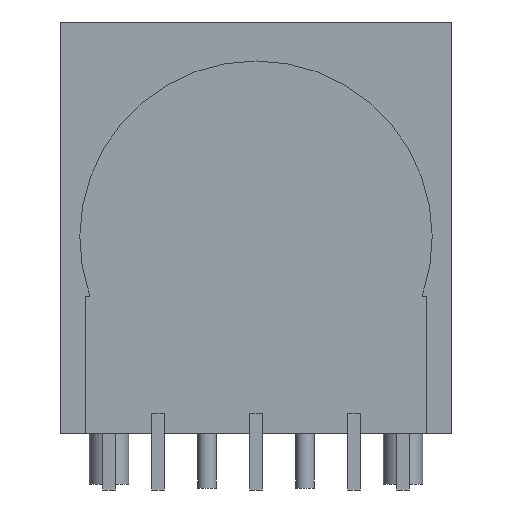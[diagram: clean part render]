
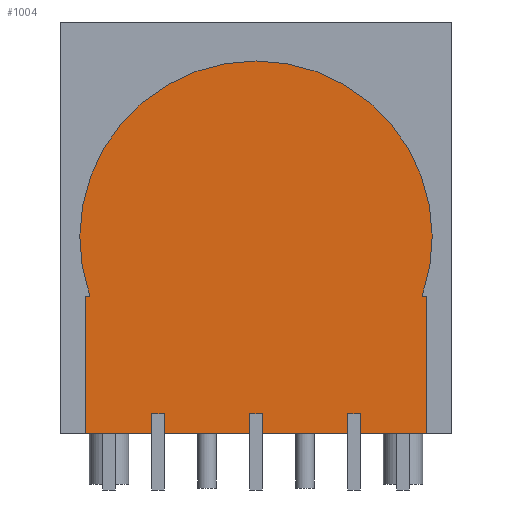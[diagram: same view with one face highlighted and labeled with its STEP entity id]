
A CAD part, front view. The second image highlights one B-rep face of the part: STEP entity #1004.
In plain terms, the highlighted planar face has unit normal (0, -1, 0).
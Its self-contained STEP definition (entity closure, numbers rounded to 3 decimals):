
#126 = PLANE('',#127);
#127 = AXIS2_PLACEMENT_3D('',#128,#129,#130);
#128 = CARTESIAN_POINT('',(-10.,-1.78,0.));
#129 = DIRECTION('',(0.,0.,1.));
#130 = DIRECTION('',(1.,0.,0.));
#309 = PLANE('',#310);
#310 = AXIS2_PLACEMENT_3D('',#311,#312,#313);
#311 = CARTESIAN_POINT('',(8.7,-13.2,0.));
#312 = DIRECTION('',(1.,0.,0.));
#313 = DIRECTION('',(0.,0.,1.));
#337 = PLANE('',#338);
#338 = AXIS2_PLACEMENT_3D('',#339,#340,#341);
#339 = CARTESIAN_POINT('',(-8.7,-13.2,7.));
#340 = DIRECTION('',(0.,0.,1.));
#341 = DIRECTION('',(1.,0.,0.));
#366 = CYLINDRICAL_SURFACE('',#367,9.);
#367 = AXIS2_PLACEMENT_3D('',#368,#369,#370);
#368 = CARTESIAN_POINT('',(0.,-1.78,10.01));
#369 = DIRECTION('',(-0.,1.,-0.));
#370 = DIRECTION('',(1.,0.,0.));
#394 = PLANE('',#395);
#395 = AXIS2_PLACEMENT_3D('',#396,#397,#398);
#396 = CARTESIAN_POINT('',(-8.7,-13.2,7.));
#397 = DIRECTION('',(0.,0.,1.));
#398 = DIRECTION('',(1.,0.,0.));
#420 = PLANE('',#421);
#421 = AXIS2_PLACEMENT_3D('',#422,#423,#424);
#422 = CARTESIAN_POINT('',(-8.7,-13.2,0.));
#423 = DIRECTION('',(1.,0.,0.));
#424 = DIRECTION('',(0.,0.,1.));
#567 = VERTEX_POINT('',#568);
#568 = CARTESIAN_POINT('',(-8.7,-13.2,0.));
#589 = EDGE_CURVE('',#567,#590,#592,.T.);
#590 = VERTEX_POINT('',#591);
#591 = CARTESIAN_POINT('',(8.7,-13.2,0.));
#592 = SURFACE_CURVE('',#593,(#597,#604),.PCURVE_S1.);
#593 = LINE('',#594,#595);
#594 = CARTESIAN_POINT('',(-8.7,-13.2,0.));
#595 = VECTOR('',#596,1.);
#596 = DIRECTION('',(1.,0.,0.));
#597 = PCURVE('',#126,#598);
#598 = DEFINITIONAL_REPRESENTATION('',(#599),#603);
#599 = LINE('',#600,#601);
#600 = CARTESIAN_POINT('',(1.3,-11.42));
#601 = VECTOR('',#602,1.);
#602 = DIRECTION('',(1.,0.));
#603 = ( GEOMETRIC_REPRESENTATION_CONTEXT(2) 
PARAMETRIC_REPRESENTATION_CONTEXT() REPRESENTATION_CONTEXT('2D SPACE',''
  ) );
#604 = PCURVE('',#605,#610);
#605 = PLANE('',#606);
#606 = AXIS2_PLACEMENT_3D('',#607,#608,#609);
#607 = CARTESIAN_POINT('',(-8.7,-13.2,0.));
#608 = DIRECTION('',(0.,1.,0.));
#609 = DIRECTION('',(0.,0.,1.));
#610 = DEFINITIONAL_REPRESENTATION('',(#611),#615);
#611 = LINE('',#612,#613);
#612 = CARTESIAN_POINT('',(0.,0.));
#613 = VECTOR('',#614,1.);
#614 = DIRECTION('',(0.,1.));
#615 = ( GEOMETRIC_REPRESENTATION_CONTEXT(2) 
PARAMETRIC_REPRESENTATION_CONTEXT() REPRESENTATION_CONTEXT('2D SPACE',''
  ) );
#733 = EDGE_CURVE('',#590,#734,#736,.T.);
#734 = VERTEX_POINT('',#735);
#735 = CARTESIAN_POINT('',(8.7,-13.2,7.));
#736 = SURFACE_CURVE('',#737,(#741,#748),.PCURVE_S1.);
#737 = LINE('',#738,#739);
#738 = CARTESIAN_POINT('',(8.7,-13.2,0.));
#739 = VECTOR('',#740,1.);
#740 = DIRECTION('',(0.,0.,1.));
#741 = PCURVE('',#309,#742);
#742 = DEFINITIONAL_REPRESENTATION('',(#743),#747);
#743 = LINE('',#744,#745);
#744 = CARTESIAN_POINT('',(0.,0.));
#745 = VECTOR('',#746,1.);
#746 = DIRECTION('',(1.,0.));
#747 = ( GEOMETRIC_REPRESENTATION_CONTEXT(2) 
PARAMETRIC_REPRESENTATION_CONTEXT() REPRESENTATION_CONTEXT('2D SPACE',''
  ) );
#748 = PCURVE('',#605,#749);
#749 = DEFINITIONAL_REPRESENTATION('',(#750),#754);
#750 = LINE('',#751,#752);
#751 = CARTESIAN_POINT('',(0.,17.4));
#752 = VECTOR('',#753,1.);
#753 = DIRECTION('',(1.,0.));
#754 = ( GEOMETRIC_REPRESENTATION_CONTEXT(2) 
PARAMETRIC_REPRESENTATION_CONTEXT() REPRESENTATION_CONTEXT('2D SPACE',''
  ) );
#784 = VERTEX_POINT('',#785);
#785 = CARTESIAN_POINT('',(8.482,-13.2,7.));
#804 = EDGE_CURVE('',#784,#734,#805,.T.);
#805 = SURFACE_CURVE('',#806,(#810,#817),.PCURVE_S1.);
#806 = LINE('',#807,#808);
#807 = CARTESIAN_POINT('',(-8.7,-13.2,7.));
#808 = VECTOR('',#809,1.);
#809 = DIRECTION('',(1.,0.,0.));
#810 = PCURVE('',#337,#811);
#811 = DEFINITIONAL_REPRESENTATION('',(#812),#816);
#812 = LINE('',#813,#814);
#813 = CARTESIAN_POINT('',(0.,0.));
#814 = VECTOR('',#815,1.);
#815 = DIRECTION('',(1.,0.));
#816 = ( GEOMETRIC_REPRESENTATION_CONTEXT(2) 
PARAMETRIC_REPRESENTATION_CONTEXT() REPRESENTATION_CONTEXT('2D SPACE',''
  ) );
#817 = PCURVE('',#605,#818);
#818 = DEFINITIONAL_REPRESENTATION('',(#819),#823);
#819 = LINE('',#820,#821);
#820 = CARTESIAN_POINT('',(7.,0.));
#821 = VECTOR('',#822,1.);
#822 = DIRECTION('',(0.,1.));
#823 = ( GEOMETRIC_REPRESENTATION_CONTEXT(2) 
PARAMETRIC_REPRESENTATION_CONTEXT() REPRESENTATION_CONTEXT('2D SPACE',''
  ) );
#831 = EDGE_CURVE('',#832,#784,#834,.T.);
#832 = VERTEX_POINT('',#833);
#833 = CARTESIAN_POINT('',(-8.482,-13.2,7.));
#834 = SURFACE_CURVE('',#835,(#840,#847),.PCURVE_S1.);
#835 = CIRCLE('',#836,9.);
#836 = AXIS2_PLACEMENT_3D('',#837,#838,#839);
#837 = CARTESIAN_POINT('',(0.,-13.2,10.01));
#838 = DIRECTION('',(0.,1.,0.));
#839 = DIRECTION('',(-0.942,0.,-0.334));
#840 = PCURVE('',#366,#841);
#841 = DEFINITIONAL_REPRESENTATION('',(#842),#846);
#842 = LINE('',#843,#844);
#843 = CARTESIAN_POINT('',(-9.766,-11.42));
#844 = VECTOR('',#845,1.);
#845 = DIRECTION('',(1.,-0.));
#846 = ( GEOMETRIC_REPRESENTATION_CONTEXT(2) 
PARAMETRIC_REPRESENTATION_CONTEXT() REPRESENTATION_CONTEXT('2D SPACE',''
  ) );
#847 = PCURVE('',#605,#848);
#848 = DEFINITIONAL_REPRESENTATION('',(#849),#853);
#849 = CIRCLE('',#850,9.);
#850 = AXIS2_PLACEMENT_2D('',#851,#852);
#851 = CARTESIAN_POINT('',(10.01,8.7));
#852 = DIRECTION('',(-0.334,-0.942));
#853 = ( GEOMETRIC_REPRESENTATION_CONTEXT(2) 
PARAMETRIC_REPRESENTATION_CONTEXT() REPRESENTATION_CONTEXT('2D SPACE',''
  ) );
#879 = VERTEX_POINT('',#880);
#880 = CARTESIAN_POINT('',(-8.7,-13.2,7.));
#901 = EDGE_CURVE('',#879,#832,#902,.T.);
#902 = SURFACE_CURVE('',#903,(#907,#914),.PCURVE_S1.);
#903 = LINE('',#904,#905);
#904 = CARTESIAN_POINT('',(-8.7,-13.2,7.));
#905 = VECTOR('',#906,1.);
#906 = DIRECTION('',(1.,0.,0.));
#907 = PCURVE('',#394,#908);
#908 = DEFINITIONAL_REPRESENTATION('',(#909),#913);
#909 = LINE('',#910,#911);
#910 = CARTESIAN_POINT('',(0.,0.));
#911 = VECTOR('',#912,1.);
#912 = DIRECTION('',(1.,0.));
#913 = ( GEOMETRIC_REPRESENTATION_CONTEXT(2) 
PARAMETRIC_REPRESENTATION_CONTEXT() REPRESENTATION_CONTEXT('2D SPACE',''
  ) );
#914 = PCURVE('',#605,#915);
#915 = DEFINITIONAL_REPRESENTATION('',(#916),#920);
#916 = LINE('',#917,#918);
#917 = CARTESIAN_POINT('',(7.,0.));
#918 = VECTOR('',#919,1.);
#919 = DIRECTION('',(0.,1.));
#920 = ( GEOMETRIC_REPRESENTATION_CONTEXT(2) 
PARAMETRIC_REPRESENTATION_CONTEXT() REPRESENTATION_CONTEXT('2D SPACE',''
  ) );
#926 = EDGE_CURVE('',#567,#879,#927,.T.);
#927 = SURFACE_CURVE('',#928,(#932,#939),.PCURVE_S1.);
#928 = LINE('',#929,#930);
#929 = CARTESIAN_POINT('',(-8.7,-13.2,0.));
#930 = VECTOR('',#931,1.);
#931 = DIRECTION('',(0.,0.,1.));
#932 = PCURVE('',#420,#933);
#933 = DEFINITIONAL_REPRESENTATION('',(#934),#938);
#934 = LINE('',#935,#936);
#935 = CARTESIAN_POINT('',(0.,0.));
#936 = VECTOR('',#937,1.);
#937 = DIRECTION('',(1.,0.));
#938 = ( GEOMETRIC_REPRESENTATION_CONTEXT(2) 
PARAMETRIC_REPRESENTATION_CONTEXT() REPRESENTATION_CONTEXT('2D SPACE',''
  ) );
#939 = PCURVE('',#605,#940);
#940 = DEFINITIONAL_REPRESENTATION('',(#941),#945);
#941 = LINE('',#942,#943);
#942 = CARTESIAN_POINT('',(0.,0.));
#943 = VECTOR('',#944,1.);
#944 = DIRECTION('',(1.,0.));
#945 = ( GEOMETRIC_REPRESENTATION_CONTEXT(2) 
PARAMETRIC_REPRESENTATION_CONTEXT() REPRESENTATION_CONTEXT('2D SPACE',''
  ) );
#1004 = ADVANCED_FACE('',(#1005),#605,.F.);
#1005 = FACE_BOUND('',#1006,.F.);
#1006 = EDGE_LOOP('',(#1007,#1008,#1009,#1010,#1011,#1012));
#1007 = ORIENTED_EDGE('',*,*,#733,.F.);
#1008 = ORIENTED_EDGE('',*,*,#589,.F.);
#1009 = ORIENTED_EDGE('',*,*,#926,.T.);
#1010 = ORIENTED_EDGE('',*,*,#901,.T.);
#1011 = ORIENTED_EDGE('',*,*,#831,.T.);
#1012 = ORIENTED_EDGE('',*,*,#804,.T.);
